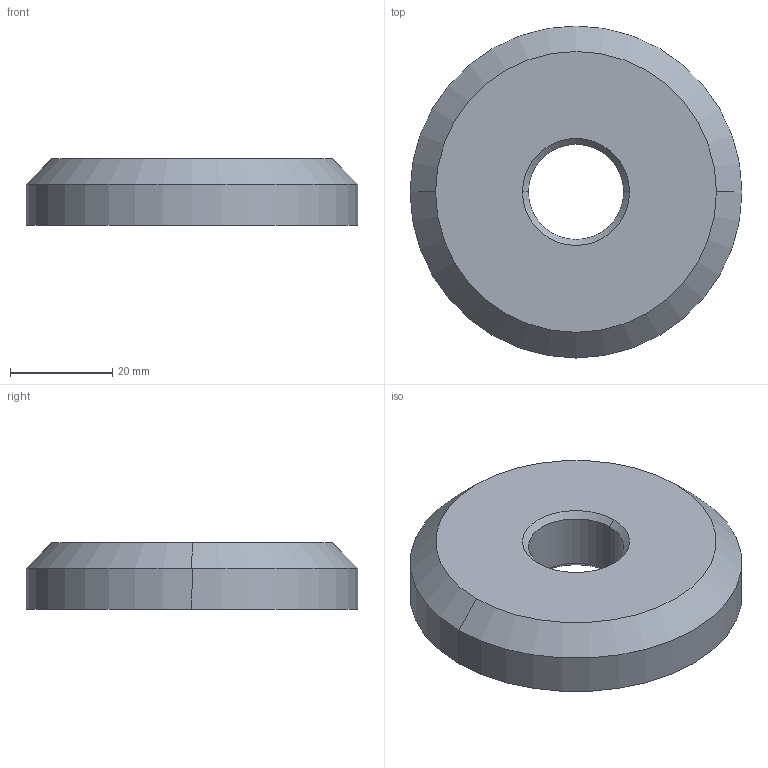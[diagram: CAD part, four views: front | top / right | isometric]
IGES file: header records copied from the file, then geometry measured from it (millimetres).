
Start section: 3D InterOp IGES (v. 2018 1.0.2), Spatial Corp. Copyright (c) 1999-2017.
Global section: file name: schmalz_10_01_01_00796_9dqrf43il21wrns0p9b91ld2c.igs; native system: Spatial Corp.; preprocessor: 3D InterOp ACIS/IGES; author: TraceParts; organization: TraceParts S.A.; date: 20181128.080714; units: millimetre
Bounding box: 65 x 65 x 13 mm (x, y, z)
Surface area: 9458.8 mm2 (no closed solid volume)
Topology: 0 solids, 0 shells, 40 faces, 168 edges, 160 vertices
Faces by surface type: revolution 34, extrusion 6
